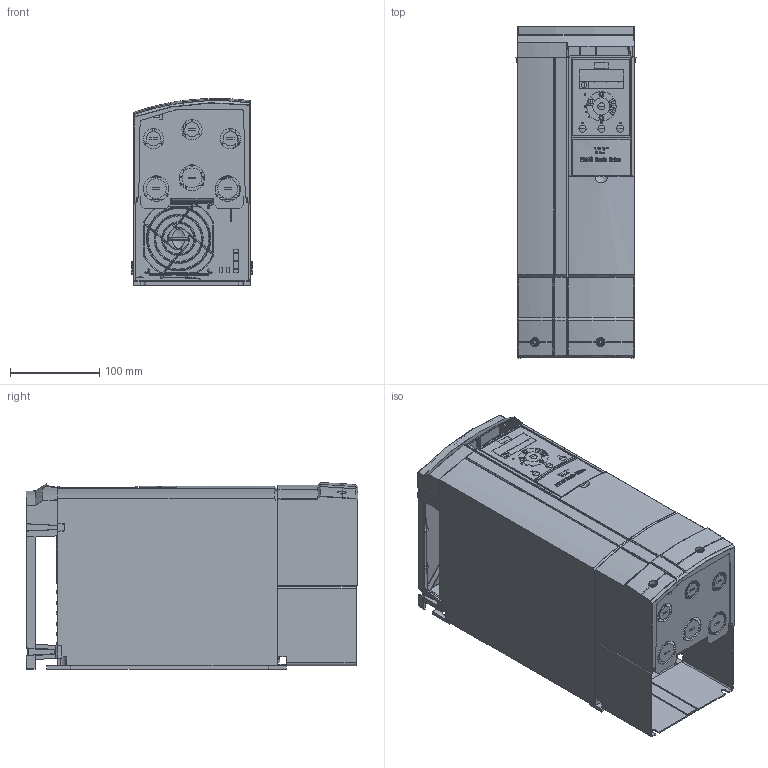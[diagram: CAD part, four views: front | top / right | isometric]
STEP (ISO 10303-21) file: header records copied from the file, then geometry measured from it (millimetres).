
FILE_DESCRIPTION((''),'2;1');
FILE_NAME('H9-IP21_ASM','2012-11-20T',('U238965'),('Danfoss Power Electronics'),'PRO/ENGINEER BY PARAMETRIC TECHNOLOGY CORPORATION, 2011490','PRO/ENGINEER BY PARAMETRIC TECHNOLOGY CORPORATION, 2011490','');
FILE_SCHEMA(('CONFIG_CONTROL_DESIGN', 'GEOMETRIC_VALIDATION_PROPERTIES_MIM'));
Products named in the file (5): DANFOSS-FC101-H9-IP20-; 130B3238; 130B4012; 130B4015MOUNTED; H9-IP21_ASM
Assembly tree (4 placements, depth 2):
  H9-IP21_ASM
    DANFOSS-FC101-H9-IP20-
    130B3238
    130B4012
    130B4015MOUNTED
Bounding box: 134.22 x 371 x 208.96 mm (x, y, z)
Volume: 6417125.9 mm3; surface area: 554513.4 mm2
Topology: 4 solids, 7 shells, 5347 faces, 13463 edges, 8114 vertices
Faces by surface type: plane 2074, cylinder 1558, bspline 818, torus 395, sphere 260, extrusion 135, cone 107
Entity records: 237516 total; most frequent: CARTESIAN_POINT 73418, ORIENTED_EDGE 26698, DIRECTION 23043, EDGE_CURVE 13349, PRESENTATION_STYLE_ASSIGNMENT 9777, STYLED_ITEM 9777, VERTEX_POINT 8114, AXIS2_PLACEMENT_3D 8050
